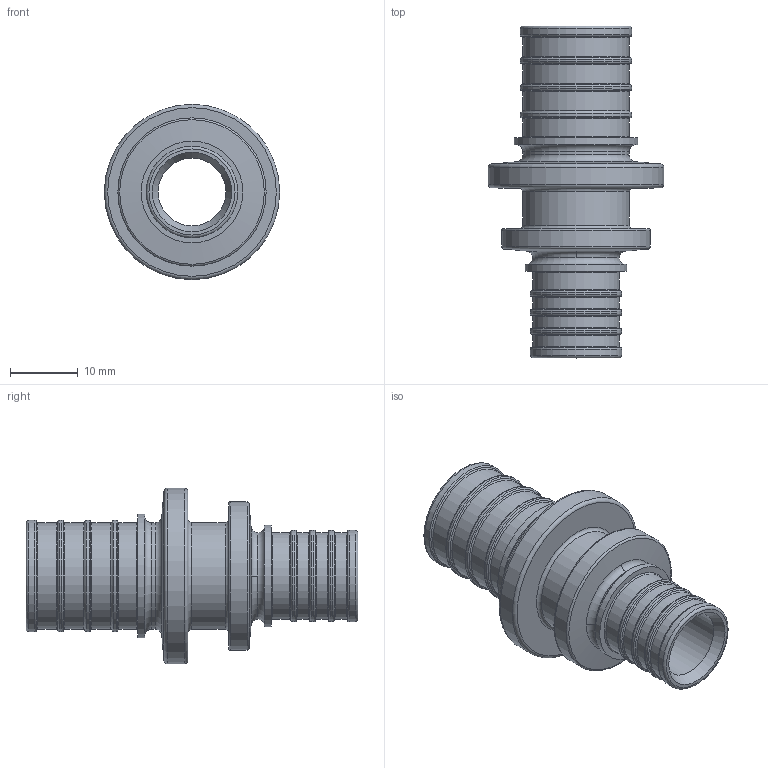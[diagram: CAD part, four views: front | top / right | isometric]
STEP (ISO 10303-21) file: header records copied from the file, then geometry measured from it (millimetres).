
FILE_DESCRIPTION(('STEP AP203'), '1');
FILE_NAME('ÂÐ.714651.002 - VTm.403.G.002016 Ôèò. íàäâ. ïð', '2024-01-23T11:04:01', ('IT'), ('VESTA'), 'C3D Converter', 'C3D Toolkit', '');
FILE_SCHEMA(('CONFIG_CONTROL_DESIGN'));
Length unit declared in the file: millimetre
Products named in the file (1): ВР.714651.002
Bounding box: 25.9 x 49 x 25.9 mm (x, y, z)
Volume: 5689.8 mm3; surface area: 5581.5 mm2
Topology: 1 solids, 1 shells, 81 faces, 162 edges, 89 vertices
Faces by surface type: torus 43, cylinder 25, plane 8, cone 5
Full cylindrical faces by diameter (mm): 10 x1, 12.5 x1, 12.8 x5, 13.5 x4, 15 x1, 15.7 x5, 15.8 x1, 16.5 x4, 18.2 x1, 21.9 x1, 25.9 x1
Entity records: 1681 total; most frequent: DIRECTION 332, CARTESIAN_POINT 248, ORIENTED_EDGE 168, AXIS2_PLACEMENT_3D 166, EDGE_LOOP 160, FACE_OUTER_BOUND 140, EDGE_CURVE 84, CIRCLE 84
